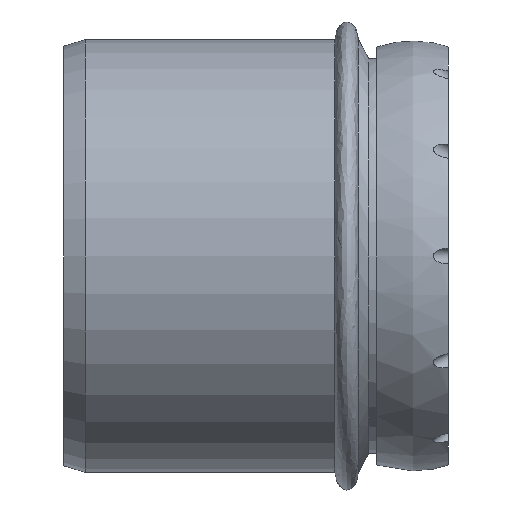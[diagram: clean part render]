
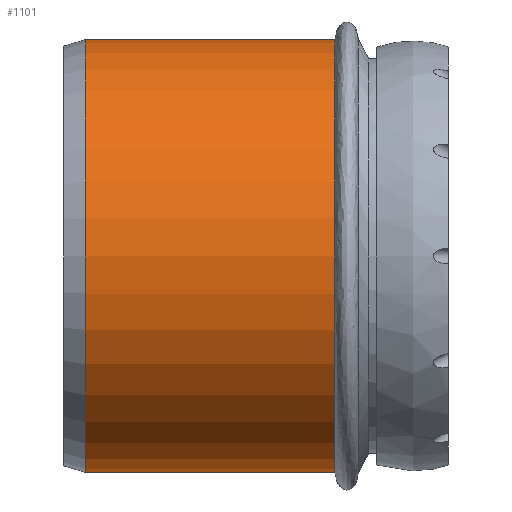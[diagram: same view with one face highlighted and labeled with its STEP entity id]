
A CAD part, front view. The second image highlights one B-rep face of the part: STEP entity #1101.
In plain terms, the highlighted cylindrical face has radius 55.1 mm (diameter 110.2 mm), a full revolution.
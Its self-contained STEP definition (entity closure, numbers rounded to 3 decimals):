
#18=FACE_BOUND('',#204,.T.);
#142=FACE_OUTER_BOUND('',#203,.T.);
#203=EDGE_LOOP('',(#931));
#204=EDGE_LOOP('',(#932));
#272=CIRCLE('',#1224,55.1);
#274=CIRCLE('',#1228,55.1);
#503=VERTEX_POINT('',#2331);
#505=VERTEX_POINT('',#2338);
#655=EDGE_CURVE('',#503,#503,#272,.T.);
#657=EDGE_CURVE('',#505,#505,#274,.T.);
#931=ORIENTED_EDGE('',*,*,#655,.F.);
#932=ORIENTED_EDGE('',*,*,#657,.T.);
#985=CYLINDRICAL_SURFACE('',#1229,55.1);
#1101=ADVANCED_FACE('',(#142,#18),#985,.T.);
#1224=AXIS2_PLACEMENT_3D('',#2333,#1531,#1532);
#1228=AXIS2_PLACEMENT_3D('',#2339,#1539,#1540);
#1229=AXIS2_PLACEMENT_3D('',#2340,#1541,#1542);
#1531=DIRECTION('center_axis',(1.,0.,0.));
#1532=DIRECTION('ref_axis',(0.,0.,-1.));
#1539=DIRECTION('center_axis',(1.,0.,0.));
#1540=DIRECTION('ref_axis',(0.,0.,-1.));
#1541=DIRECTION('center_axis',(1.,0.,0.));
#1542=DIRECTION('ref_axis',(0.,1.,0.));
#2331=CARTESIAN_POINT('',(69.1,60.25,0.));
#2333=CARTESIAN_POINT('Origin',(69.1,5.15,0.));
#2338=CARTESIAN_POINT('',(5.5,60.25,0.));
#2339=CARTESIAN_POINT('Origin',(5.5,5.15,0.));
#2340=CARTESIAN_POINT('Origin',(37.3,5.15,0.));
